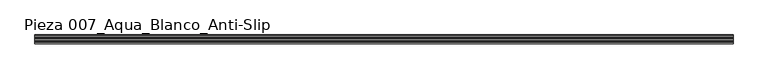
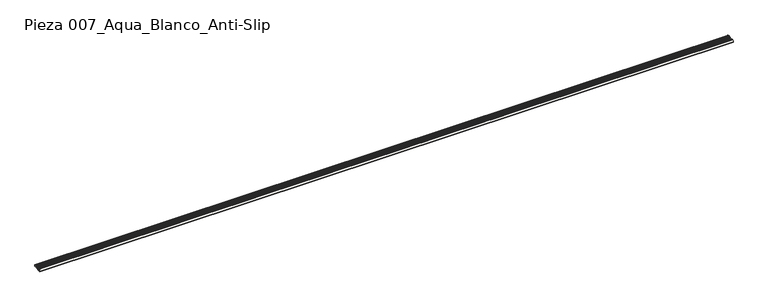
"""IFC4 building model written with IfcOpenShell, lengths in millimetres: slab geometry, ROSA GRES_007 : Pieza 007_Aqua_Blanco_Anti-Slip."""

from ifc_helpers import new_model, si_unit, point, frame, frame_2d, origin, place, context, project, spatial, polyline, circle_curve, trimmed, segment, composite_curve, outline, extrude, source, transform, mapped, element, save


def pieza_007_aqua_blanco_anti_slip_9ec02dc4(model_context):
    return source(origin(), model_context, "Body", "SweptSolid", [
        extrude(outline(composite_curve([segment(polyline([(14.3742659, 174.3159971), (0.6896004, 173.202129), (-0.0710994, 182.547869)]), True, "CONTINUOUS"), segment(trimmed(circle_curve(frame_2d((15.1536138, 183.7870899)), 15.2750633), [point((-0.0710994, 182.547869))], [point((12.7748841, 198.875801))], False, "CARTESIAN"), True, "CONTINUOUS"), segment(polyline([(12.7748841, 198.875801), (16.9364731, 199.1796191)]), True, "CONTINUOUS"), segment(trimmed(circle_curve(frame_2d((20.3008643, 202.7650351)), 4.9167404), [point((16.9364731, 199.1796191))], [point((24.7247274, 200.6193952))], True, "CARTESIAN"), True, "CONTINUOUS"), segment(trimmed(circle_curve(frame_2d((27.3971937, 201.142641)), 2.7232081), [point((24.7247274, 200.6193952))], [point((29.9345538, 200.1538709))], True, "CARTESIAN"), True, "CONTINUOUS"), segment(polyline([(29.9345538, 200.1538709), (33.8762309, 200.4746837), (37.1820416, 176.172444)]), True, "CONTINUOUS"), segment(trimmed(circle_curve(frame_2d((25.9545763, 173.0767428)), 11.6464304), [point((37.1820416, 176.172444))], [point((14.3742659, 174.3159971))], True, "CARTESIAN"), True, "CONTINUOUS")], self_intersect=False)), frame((0.0, 0.0, 0.0), z_axis=(1.0, 0.0, 0.0), x_axis=(0.0, 1.0, 0.0)), (0.0, 0.0, 1.0), 9502.6320351),
        extrude(outline(composite_curve([segment(polyline([(71.8498608, 178.9942432), (37.1820416, 176.172444), (33.8762309, 200.4746837)]), True, "CONTINUOUS"), segment(trimmed(circle_curve(frame_2d((106.9597263, 233.2212806)), 80.084561), [point((33.8762309, 200.4746837))], [point((40.9402045, 187.8896178))], True, "CARTESIAN"), True, "CONTINUOUS"), segment(trimmed(circle_curve(frame_2d((43.5817022, 189.3117604)), 3.0), [point((40.9402045, 187.8896178))], [point((43.8250834, 186.3216491))], True, "CARTESIAN"), True, "CONTINUOUS"), segment(polyline([(43.8250834, 186.3216491), (61.867532, 187.7902205)]), True, "CONTINUOUS"), segment(trimmed(circle_curve(frame_2d((57.0579989, 199.0821231)), 12.2734948), [point((61.867532, 187.7902205))], [point((69.3023399, 198.236672))], True, "CARTESIAN"), True, "CONTINUOUS"), segment(polyline([(69.3023399, 198.236672), (69.6579726, 203.3871621), (73.3820924, 203.6902881)]), True, "CONTINUOUS"), segment(trimmed(circle_curve(frame_2d((76.8218788, 206.722806)), 4.5856619), [point((73.3820924, 203.6902881))], [point((81.0271834, 204.8942251))], True, "CARTESIAN"), True, "CONTINUOUS"), segment(trimmed(circle_curve(frame_2d((84.8780848, 207.3839748)), 4.5856619), [point((81.0271834, 204.8942251))], [point((89.0833894, 205.555394))], True, "CARTESIAN"), True, "CONTINUOUS"), segment(trimmed(circle_curve(frame_2d((92.9342908, 208.0451437)), 4.5856619), [point((89.0833894, 205.555394))], [point((97.1292049, 206.1928503))], True, "CARTESIAN"), True, "CONTINUOUS"), segment(trimmed(circle_curve(frame_2d((100.9933064, 209.1504161)), 4.8660534), [point((97.1292049, 206.1928503))], [point((105.2742048, 206.836894))], True, "CARTESIAN"), True, "CONTINUOUS"), segment(trimmed(circle_curve(frame_2d((109.1074243, 209.7932705)), 4.8408403), [point((105.2742048, 206.836894))], [point((113.0660814, 207.0070959))], True, "CARTESIAN"), True, "CONTINUOUS"), segment(polyline([(113.0660814, 207.0070959), (115.3491545, 207.1930072), (115.5338707, 204.9236084), (117.4809059, 205.0820876), (119.2900344, 182.8556525), (108.342302, 181.9645582)]), True, "CONTINUOUS"), segment(trimmed(circle_curve(frame_2d((91.1625174, 167.3774726)), 22.5372595), [point((108.342302, 181.9645582))], [point((71.8498608, 178.9942432))], True, "CARTESIAN"), True, "CONTINUOUS")], self_intersect=False)), frame((0.0, 0.0, 0.0), z_axis=(1.0, 0.0, 0.0), x_axis=(0.0, 1.0, 0.0)), (0.0, 0.0, 1.0), 9502.6320351),
    ])


if __name__ == "__main__":
    model = new_model("IFC4")
    model_context = context("Model", 3, world=origin())
    ifc_project = project(units=[si_unit("LENGTHUNIT", "METRE", prefix="MILLI")], contexts=[model_context])
    site = spatial("IfcSite", under=ifc_project)
    building = spatial("IfcBuilding", under=site)
    placement = place(None, origin())
    pieza_007_aqua_blanco_anti_slip_shape = pieza_007_aqua_blanco_anti_slip_9ec02dc4(model_context)
    element("IfcSlab", 1, ObjectType="ROSA GRES_007 : Pieza 007_Aqua_Blanco_Anti-Slip", at=placement, inside=building, context=model_context, shape_type="MappedRepresentation", body=[
        mapped(pieza_007_aqua_blanco_anti_slip_shape, transform((0.0, 0.0, 0.0), x_axis=(1.0, 0.0, 0.0), y_axis=(0.0, 1.0, 0.0), z_axis=(0.0, 0.0, 1.0))),
    ])
    save(model, "model.ifc")
